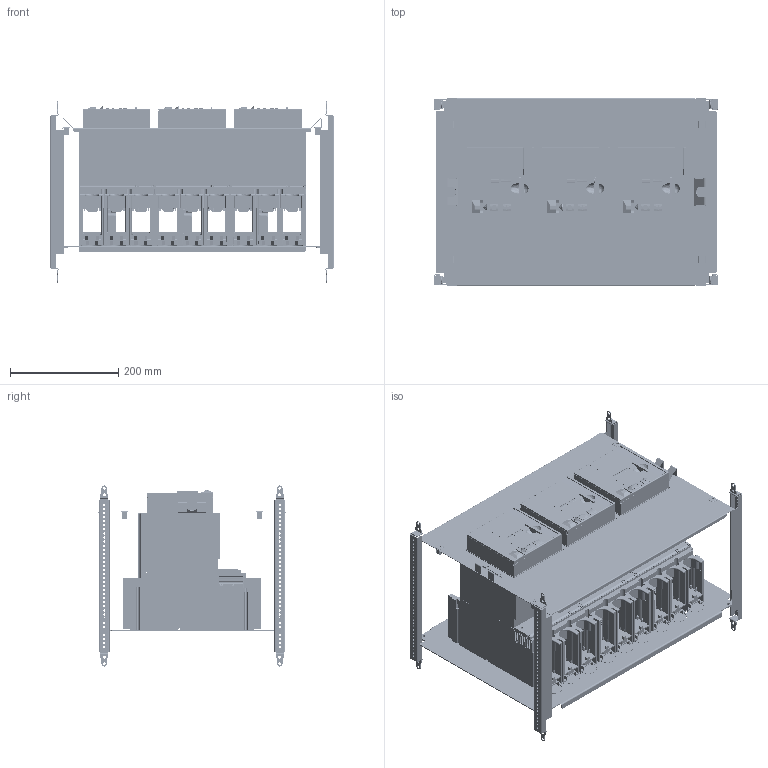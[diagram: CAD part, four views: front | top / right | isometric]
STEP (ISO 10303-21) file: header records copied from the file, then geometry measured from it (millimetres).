
FILE_DESCRIPTION(('CAx-IF Rec.Pracs.---Model Styling and Organization---1.2---2011-12-15','CAx-IF Rec.Pracs.---Geometric and Assembly Validation Properties---4.1---2014-06-16','CAx-IF Rec.Pracs.---PMI Polyline Presentation---2.0---2013-05-24'),'2;1');
FILE_NAME('R5PKIB7V61216 (F-MO).stp','2021-07-29T03:09:53+03:00',(''),(''),'STEP Interface 4.4 by CT CoreTechnologie','3D_Evolution4.4 by CT CoreTechnologie','');
FILE_SCHEMA(('AUTOMOTIVE_DESIGN { 1 0 10303 214 1 1 1 1 }'));
Length unit declared in the file: millimetre
Products named in the file (1): R5PKIB7V61216 (F-MO)
Bounding box: 526 x 348 x 335 mm (x, y, z)
Surface area: 3277121.1 mm2 (no closed solid volume)
Topology: 0 solids, 147 shells, 15693 faces, 46702 edges, 31024 vertices
Faces by surface type: plane 10874, cylinder 4353, bspline 466
Entity records: 533307 total; most frequent: CARTESIAN_POINT 105432, ORIENTED_EDGE 93082, DIRECTION 85178, EDGE_CURVE 46549, VECTOR 37174, LINE 37174, VERTEX_POINT 31085, AXIS2_PLACEMENT_3D 24002
